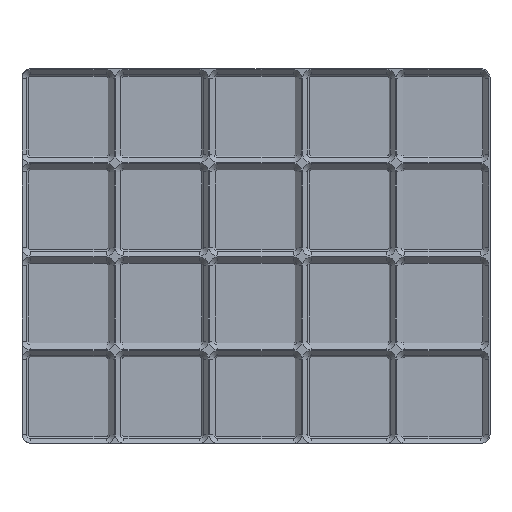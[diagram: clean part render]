
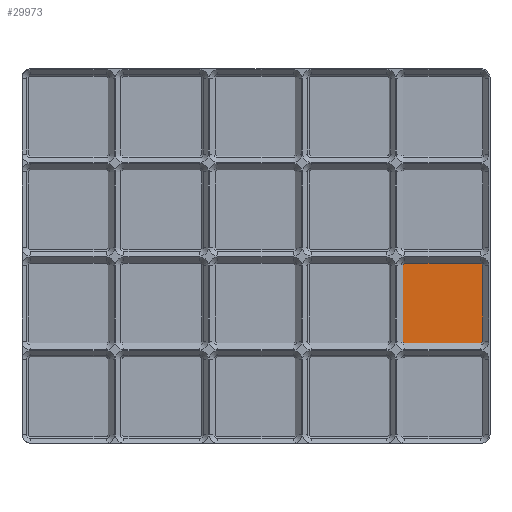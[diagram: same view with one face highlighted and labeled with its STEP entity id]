
A CAD part, top view. The second image highlights one B-rep face of the part: STEP entity #29973.
In plain terms, the highlighted planar face has unit normal (0, 0, 1).
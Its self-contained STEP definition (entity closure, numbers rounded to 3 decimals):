
#18578 = PLANE('',#18579);
#18579 = AXIS2_PLACEMENT_3D('',#18580,#18581,#18582);
#18580 = CARTESIAN_POINT('',(170.,62.75,1.15));
#18581 = DIRECTION('',(-0.707,0.,-0.707));
#18582 = DIRECTION('',(0.,-1.,-0.));
#18647 = CONICAL_SURFACE('',#18648,0.95,0.785);
#18648 = AXIS2_PLACEMENT_3D('',#18649,#18650,#18651);
#18649 = CARTESIAN_POINT('',(171.75,45.75,0.35));
#18650 = DIRECTION('',(0.,0.,1.));
#18651 = DIRECTION('',(1.,0.,0.));
#18698 = PLANE('',#18699);
#18699 = AXIS2_PLACEMENT_3D('',#18700,#18701,#18702);
#18700 = CARTESIAN_POINT('',(188.75,44.,1.15));
#18701 = DIRECTION('',(0.,-0.707,-0.707));
#18702 = DIRECTION('',(1.,0.,0.));
#18750 = CONICAL_SURFACE('',#18751,0.95,0.785);
#18751 = AXIS2_PLACEMENT_3D('',#18752,#18753,#18754);
#18752 = CARTESIAN_POINT('',(205.75,45.75,0.35));
#18753 = DIRECTION('',(0.,0.,1.));
#18754 = DIRECTION('',(1.,0.,0.));
#18801 = PLANE('',#18802);
#18802 = AXIS2_PLACEMENT_3D('',#18803,#18804,#18805);
#18803 = CARTESIAN_POINT('',(207.5,62.75,1.15));
#18804 = DIRECTION('',(0.707,0.,-0.707));
#18805 = DIRECTION('',(0.,1.,0.));
#18853 = CONICAL_SURFACE('',#18854,0.95,0.785);
#18854 = AXIS2_PLACEMENT_3D('',#18855,#18856,#18857);
#18855 = CARTESIAN_POINT('',(205.75,79.75,0.35));
#18856 = DIRECTION('',(0.,0.,1.));
#18857 = DIRECTION('',(1.,0.,0.));
#18904 = PLANE('',#18905);
#18905 = AXIS2_PLACEMENT_3D('',#18906,#18907,#18908);
#18906 = CARTESIAN_POINT('',(188.75,81.5,1.15));
#18907 = DIRECTION('',(0.,0.707,-0.707));
#18908 = DIRECTION('',(-1.,0.,-0.));
#18954 = CONICAL_SURFACE('',#18955,0.95,0.785);
#18955 = AXIS2_PLACEMENT_3D('',#18956,#18957,#18958);
#18956 = CARTESIAN_POINT('',(171.75,79.75,0.35));
#18957 = DIRECTION('',(0.,0.,1.));
#18958 = DIRECTION('',(1.,0.,0.));
#26292 = EDGE_CURVE('',#26293,#26295,#26297,.T.);
#26293 = VERTEX_POINT('',#26294);
#26294 = CARTESIAN_POINT('',(170.8,45.75,0.35));
#26295 = VERTEX_POINT('',#26296);
#26296 = CARTESIAN_POINT('',(170.8,79.75,0.35));
#26297 = SURFACE_CURVE('',#26298,(#26302,#26309),.PCURVE_S1.);
#26298 = LINE('',#26299,#26300);
#26299 = CARTESIAN_POINT('',(170.8,62.75,0.35));
#26300 = VECTOR('',#26301,1.);
#26301 = DIRECTION('',(0.,1.,0.));
#26302 = PCURVE('',#18578,#26303);
#26303 = DEFINITIONAL_REPRESENTATION('',(#26304),#26308);
#26304 = LINE('',#26305,#26306);
#26305 = CARTESIAN_POINT('',(0.,-1.131));
#26306 = VECTOR('',#26307,1.);
#26307 = DIRECTION('',(-1.,0.));
#26308 = ( GEOMETRIC_REPRESENTATION_CONTEXT(2) 
PARAMETRIC_REPRESENTATION_CONTEXT() REPRESENTATION_CONTEXT('2D SPACE',''
  ) );
#26309 = PCURVE('',#26310,#26315);
#26310 = PLANE('',#26311);
#26311 = AXIS2_PLACEMENT_3D('',#26312,#26313,#26314);
#26312 = CARTESIAN_POINT('',(171.75,45.75,0.35));
#26313 = DIRECTION('',(0.,0.,1.));
#26314 = DIRECTION('',(1.,0.,0.));
#26315 = DEFINITIONAL_REPRESENTATION('',(#26316),#26320);
#26316 = LINE('',#26317,#26318);
#26317 = CARTESIAN_POINT('',(-0.95,17.));
#26318 = VECTOR('',#26319,1.);
#26319 = DIRECTION('',(0.,1.));
#26320 = ( GEOMETRIC_REPRESENTATION_CONTEXT(2) 
PARAMETRIC_REPRESENTATION_CONTEXT() REPRESENTATION_CONTEXT('2D SPACE',''
  ) );
#26362 = EDGE_CURVE('',#26293,#26363,#26365,.T.);
#26363 = VERTEX_POINT('',#26364);
#26364 = CARTESIAN_POINT('',(171.75,44.8,0.35));
#26365 = SURFACE_CURVE('',#26366,(#26371,#26378),.PCURVE_S1.);
#26366 = CIRCLE('',#26367,0.95);
#26367 = AXIS2_PLACEMENT_3D('',#26368,#26369,#26370);
#26368 = CARTESIAN_POINT('',(171.75,45.75,0.35));
#26369 = DIRECTION('',(0.,0.,1.));
#26370 = DIRECTION('',(1.,0.,0.));
#26371 = PCURVE('',#18647,#26372);
#26372 = DEFINITIONAL_REPRESENTATION('',(#26373),#26377);
#26373 = LINE('',#26374,#26375);
#26374 = CARTESIAN_POINT('',(0.,0.));
#26375 = VECTOR('',#26376,1.);
#26376 = DIRECTION('',(1.,0.));
#26377 = ( GEOMETRIC_REPRESENTATION_CONTEXT(2) 
PARAMETRIC_REPRESENTATION_CONTEXT() REPRESENTATION_CONTEXT('2D SPACE',''
  ) );
#26378 = PCURVE('',#26310,#26379);
#26379 = DEFINITIONAL_REPRESENTATION('',(#26380),#26384);
#26380 = CIRCLE('',#26381,0.95);
#26381 = AXIS2_PLACEMENT_2D('',#26382,#26383);
#26382 = CARTESIAN_POINT('',(0.,0.));
#26383 = DIRECTION('',(1.,0.));
#26384 = ( GEOMETRIC_REPRESENTATION_CONTEXT(2) 
PARAMETRIC_REPRESENTATION_CONTEXT() REPRESENTATION_CONTEXT('2D SPACE',''
  ) );
#26409 = EDGE_CURVE('',#26363,#26410,#26412,.T.);
#26410 = VERTEX_POINT('',#26411);
#26411 = CARTESIAN_POINT('',(205.75,44.8,0.35));
#26412 = SURFACE_CURVE('',#26413,(#26417,#26424),.PCURVE_S1.);
#26413 = LINE('',#26414,#26415);
#26414 = CARTESIAN_POINT('',(188.75,44.8,0.35));
#26415 = VECTOR('',#26416,1.);
#26416 = DIRECTION('',(1.,0.,0.));
#26417 = PCURVE('',#18698,#26418);
#26418 = DEFINITIONAL_REPRESENTATION('',(#26419),#26423);
#26419 = LINE('',#26420,#26421);
#26420 = CARTESIAN_POINT('',(0.,-1.131));
#26421 = VECTOR('',#26422,1.);
#26422 = DIRECTION('',(1.,0.));
#26423 = ( GEOMETRIC_REPRESENTATION_CONTEXT(2) 
PARAMETRIC_REPRESENTATION_CONTEXT() REPRESENTATION_CONTEXT('2D SPACE',''
  ) );
#26424 = PCURVE('',#26310,#26425);
#26425 = DEFINITIONAL_REPRESENTATION('',(#26426),#26430);
#26426 = LINE('',#26427,#26428);
#26427 = CARTESIAN_POINT('',(17.,-0.95));
#26428 = VECTOR('',#26429,1.);
#26429 = DIRECTION('',(1.,0.));
#26430 = ( GEOMETRIC_REPRESENTATION_CONTEXT(2) 
PARAMETRIC_REPRESENTATION_CONTEXT() REPRESENTATION_CONTEXT('2D SPACE',''
  ) );
#26455 = EDGE_CURVE('',#26410,#26456,#26458,.T.);
#26456 = VERTEX_POINT('',#26457);
#26457 = CARTESIAN_POINT('',(206.7,45.75,0.35));
#26458 = SURFACE_CURVE('',#26459,(#26464,#26471),.PCURVE_S1.);
#26459 = CIRCLE('',#26460,0.95);
#26460 = AXIS2_PLACEMENT_3D('',#26461,#26462,#26463);
#26461 = CARTESIAN_POINT('',(205.75,45.75,0.35));
#26462 = DIRECTION('',(0.,0.,1.));
#26463 = DIRECTION('',(1.,0.,0.));
#26464 = PCURVE('',#18750,#26465);
#26465 = DEFINITIONAL_REPRESENTATION('',(#26466),#26470);
#26466 = LINE('',#26467,#26468);
#26467 = CARTESIAN_POINT('',(0.,0.));
#26468 = VECTOR('',#26469,1.);
#26469 = DIRECTION('',(1.,0.));
#26470 = ( GEOMETRIC_REPRESENTATION_CONTEXT(2) 
PARAMETRIC_REPRESENTATION_CONTEXT() REPRESENTATION_CONTEXT('2D SPACE',''
  ) );
#26471 = PCURVE('',#26310,#26472);
#26472 = DEFINITIONAL_REPRESENTATION('',(#26473),#26477);
#26473 = CIRCLE('',#26474,0.95);
#26474 = AXIS2_PLACEMENT_2D('',#26475,#26476);
#26475 = CARTESIAN_POINT('',(34.,0.));
#26476 = DIRECTION('',(1.,0.));
#26477 = ( GEOMETRIC_REPRESENTATION_CONTEXT(2) 
PARAMETRIC_REPRESENTATION_CONTEXT() REPRESENTATION_CONTEXT('2D SPACE',''
  ) );
#26502 = EDGE_CURVE('',#26456,#26503,#26505,.T.);
#26503 = VERTEX_POINT('',#26504);
#26504 = CARTESIAN_POINT('',(206.7,79.75,0.35));
#26505 = SURFACE_CURVE('',#26506,(#26510,#26517),.PCURVE_S1.);
#26506 = LINE('',#26507,#26508);
#26507 = CARTESIAN_POINT('',(206.7,62.75,0.35));
#26508 = VECTOR('',#26509,1.);
#26509 = DIRECTION('',(0.,1.,0.));
#26510 = PCURVE('',#18801,#26511);
#26511 = DEFINITIONAL_REPRESENTATION('',(#26512),#26516);
#26512 = LINE('',#26513,#26514);
#26513 = CARTESIAN_POINT('',(0.,-1.131));
#26514 = VECTOR('',#26515,1.);
#26515 = DIRECTION('',(1.,0.));
#26516 = ( GEOMETRIC_REPRESENTATION_CONTEXT(2) 
PARAMETRIC_REPRESENTATION_CONTEXT() REPRESENTATION_CONTEXT('2D SPACE',''
  ) );
#26517 = PCURVE('',#26310,#26518);
#26518 = DEFINITIONAL_REPRESENTATION('',(#26519),#26523);
#26519 = LINE('',#26520,#26521);
#26520 = CARTESIAN_POINT('',(34.95,17.));
#26521 = VECTOR('',#26522,1.);
#26522 = DIRECTION('',(0.,1.));
#26523 = ( GEOMETRIC_REPRESENTATION_CONTEXT(2) 
PARAMETRIC_REPRESENTATION_CONTEXT() REPRESENTATION_CONTEXT('2D SPACE',''
  ) );
#26548 = EDGE_CURVE('',#26503,#26549,#26551,.T.);
#26549 = VERTEX_POINT('',#26550);
#26550 = CARTESIAN_POINT('',(205.75,80.7,0.35));
#26551 = SURFACE_CURVE('',#26552,(#26557,#26564),.PCURVE_S1.);
#26552 = CIRCLE('',#26553,0.95);
#26553 = AXIS2_PLACEMENT_3D('',#26554,#26555,#26556);
#26554 = CARTESIAN_POINT('',(205.75,79.75,0.35));
#26555 = DIRECTION('',(0.,0.,1.));
#26556 = DIRECTION('',(1.,0.,0.));
#26557 = PCURVE('',#18853,#26558);
#26558 = DEFINITIONAL_REPRESENTATION('',(#26559),#26563);
#26559 = LINE('',#26560,#26561);
#26560 = CARTESIAN_POINT('',(0.,0.));
#26561 = VECTOR('',#26562,1.);
#26562 = DIRECTION('',(1.,0.));
#26563 = ( GEOMETRIC_REPRESENTATION_CONTEXT(2) 
PARAMETRIC_REPRESENTATION_CONTEXT() REPRESENTATION_CONTEXT('2D SPACE',''
  ) );
#26564 = PCURVE('',#26310,#26565);
#26565 = DEFINITIONAL_REPRESENTATION('',(#26566),#26570);
#26566 = CIRCLE('',#26567,0.95);
#26567 = AXIS2_PLACEMENT_2D('',#26568,#26569);
#26568 = CARTESIAN_POINT('',(34.,34.));
#26569 = DIRECTION('',(1.,0.));
#26570 = ( GEOMETRIC_REPRESENTATION_CONTEXT(2) 
PARAMETRIC_REPRESENTATION_CONTEXT() REPRESENTATION_CONTEXT('2D SPACE',''
  ) );
#26595 = EDGE_CURVE('',#26596,#26549,#26598,.T.);
#26596 = VERTEX_POINT('',#26597);
#26597 = CARTESIAN_POINT('',(171.75,80.7,0.35));
#26598 = SURFACE_CURVE('',#26599,(#26603,#26610),.PCURVE_S1.);
#26599 = LINE('',#26600,#26601);
#26600 = CARTESIAN_POINT('',(188.75,80.7,0.35));
#26601 = VECTOR('',#26602,1.);
#26602 = DIRECTION('',(1.,0.,0.));
#26603 = PCURVE('',#18904,#26604);
#26604 = DEFINITIONAL_REPRESENTATION('',(#26605),#26609);
#26605 = LINE('',#26606,#26607);
#26606 = CARTESIAN_POINT('',(0.,-1.131));
#26607 = VECTOR('',#26608,1.);
#26608 = DIRECTION('',(-1.,0.));
#26609 = ( GEOMETRIC_REPRESENTATION_CONTEXT(2) 
PARAMETRIC_REPRESENTATION_CONTEXT() REPRESENTATION_CONTEXT('2D SPACE',''
  ) );
#26610 = PCURVE('',#26310,#26611);
#26611 = DEFINITIONAL_REPRESENTATION('',(#26612),#26616);
#26612 = LINE('',#26613,#26614);
#26613 = CARTESIAN_POINT('',(17.,34.95));
#26614 = VECTOR('',#26615,1.);
#26615 = DIRECTION('',(1.,0.));
#26616 = ( GEOMETRIC_REPRESENTATION_CONTEXT(2) 
PARAMETRIC_REPRESENTATION_CONTEXT() REPRESENTATION_CONTEXT('2D SPACE',''
  ) );
#26641 = EDGE_CURVE('',#26596,#26295,#26642,.T.);
#26642 = SURFACE_CURVE('',#26643,(#26648,#26655),.PCURVE_S1.);
#26643 = CIRCLE('',#26644,0.95);
#26644 = AXIS2_PLACEMENT_3D('',#26645,#26646,#26647);
#26645 = CARTESIAN_POINT('',(171.75,79.75,0.35));
#26646 = DIRECTION('',(0.,0.,1.));
#26647 = DIRECTION('',(1.,0.,0.));
#26648 = PCURVE('',#18954,#26649);
#26649 = DEFINITIONAL_REPRESENTATION('',(#26650),#26654);
#26650 = LINE('',#26651,#26652);
#26651 = CARTESIAN_POINT('',(0.,0.));
#26652 = VECTOR('',#26653,1.);
#26653 = DIRECTION('',(1.,0.));
#26654 = ( GEOMETRIC_REPRESENTATION_CONTEXT(2) 
PARAMETRIC_REPRESENTATION_CONTEXT() REPRESENTATION_CONTEXT('2D SPACE',''
  ) );
#26655 = PCURVE('',#26310,#26656);
#26656 = DEFINITIONAL_REPRESENTATION('',(#26657),#26661);
#26657 = CIRCLE('',#26658,0.95);
#26658 = AXIS2_PLACEMENT_2D('',#26659,#26660);
#26659 = CARTESIAN_POINT('',(0.,34.));
#26660 = DIRECTION('',(1.,0.));
#26661 = ( GEOMETRIC_REPRESENTATION_CONTEXT(2) 
PARAMETRIC_REPRESENTATION_CONTEXT() REPRESENTATION_CONTEXT('2D SPACE',''
  ) );
#29973 = ADVANCED_FACE('',(#29974),#26310,.T.);
#29974 = FACE_BOUND('',#29975,.T.);
#29975 = EDGE_LOOP('',(#29976,#29977,#29978,#29979,#29980,#29981,#29982,
    #29983));
#29976 = ORIENTED_EDGE('',*,*,#26292,.F.);
#29977 = ORIENTED_EDGE('',*,*,#26362,.T.);
#29978 = ORIENTED_EDGE('',*,*,#26409,.T.);
#29979 = ORIENTED_EDGE('',*,*,#26455,.T.);
#29980 = ORIENTED_EDGE('',*,*,#26502,.T.);
#29981 = ORIENTED_EDGE('',*,*,#26548,.T.);
#29982 = ORIENTED_EDGE('',*,*,#26595,.F.);
#29983 = ORIENTED_EDGE('',*,*,#26641,.T.);
